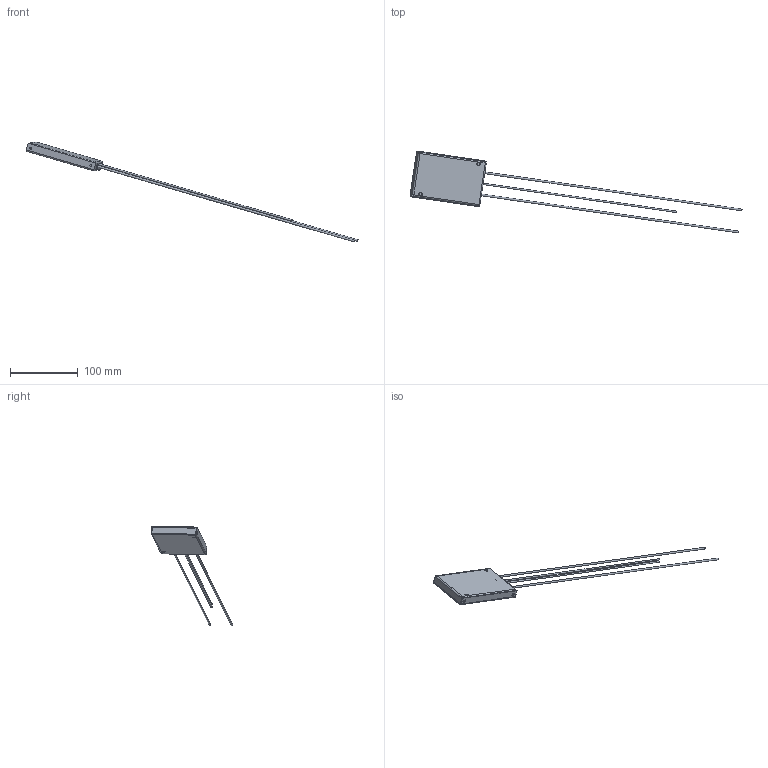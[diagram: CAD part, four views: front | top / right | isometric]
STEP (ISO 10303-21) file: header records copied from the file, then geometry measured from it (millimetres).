
FILE_DESCRIPTION(/* description */ (''),/* implementation_level */ '2;1');
FILE_NAME(/* name */ 'C:\_Vault\Dati\CATALOGO\RFX\RFX1300-600\RFXT600.stp',/* time_stamp */ '2014-03-25T19:58:33+01:00',/* author */ ('andreac'),/* organization */ (''),/* preprocessor_version */ 'ST-DEVELOPER v15.2',/* originating_system */ 'Autodesk Inventor 2014',/* authorisation */ '');
FILE_SCHEMA (('AUTOMOTIVE_DESIGN { 1 0 10303 214 3 1 1 }'));
Length unit declared in the file: millimetre
Products named in the file (1): RFXT600
Bounding box: 489.97 x 120.63 x 147.5 mm (x, y, z)
Volume: 26306.2 mm3; surface area: 48962.3 mm2
Topology: 5 solids, 5 shells, 116 faces, 290 edges, 176 vertices
Faces by surface type: plane 80, cylinder 36
Full cylindrical faces by diameter (mm): 2 x2, 2.7 x2, 3 x4, 4.8 x2, 5 x8, 6 x2, 7 x3
Entity records: 3454 total; most frequent: DIRECTION 569, CARTESIAN_POINT 567, ORIENTED_EDGE 524, EDGE_CURVE 257, AXIS2_PLACEMENT_3D 199, LINE 171, VECTOR 171, VERTEX_POINT 165
